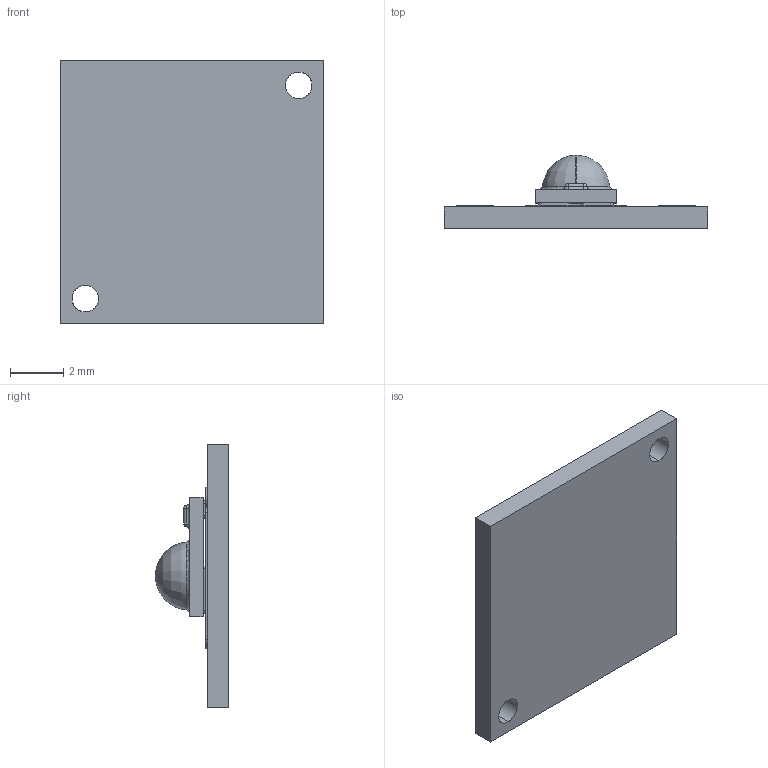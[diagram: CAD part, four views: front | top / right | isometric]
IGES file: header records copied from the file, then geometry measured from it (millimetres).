
Start section: SolidWorks IGES file using analytic representation for surfaces
Global section: file name: E:\Fast Tracks\Non-Production\Quadica\SP Assemblies\SP-05\SP-05.IGS; native system: SolidWorks 2014; preprocessor: SolidWorks 2014; author: MainServer; date: 140728.184751; units: inch
Bounding box: 9.9 x 2.75 x 9.9 mm (x, y, z)
Surface area: 275.4 mm2 (no closed solid volume)
Topology: 0 solids, 0 shells, 256 faces, 2227 edges, 2223 vertices
Faces by surface type: bspline 204, revolution 52
